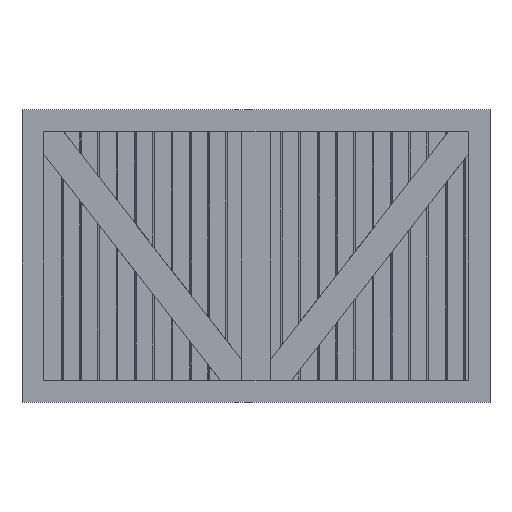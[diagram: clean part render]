
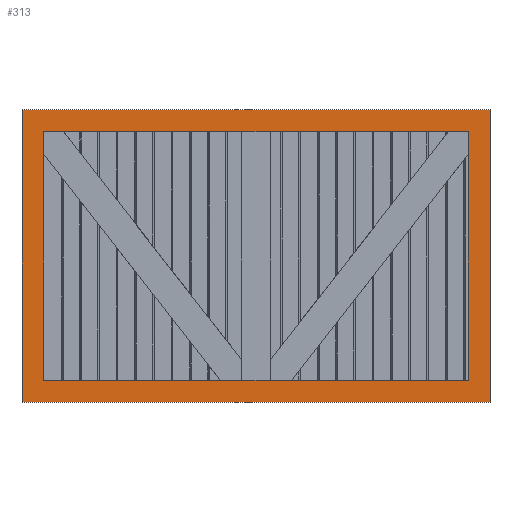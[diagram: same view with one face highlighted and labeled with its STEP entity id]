
A CAD part, top view. The second image highlights one B-rep face of the part: STEP entity #313.
In plain terms, the highlighted planar face has unit normal (0, 0, 1).
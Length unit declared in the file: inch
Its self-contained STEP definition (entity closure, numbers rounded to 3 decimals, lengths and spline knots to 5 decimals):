
#35 = CARTESIAN_POINT ( 'NONE',  ( -3.625, -2.125, 0.25 ) ) ;
#81 = VERTEX_POINT ( 'NONE', #2561 ) ;
#115 = VERTEX_POINT ( 'NONE', #2592 ) ;
#236 = ORIENTED_EDGE ( 'NONE', *, *, #1536, .T. ) ;
#239 = CARTESIAN_POINT ( 'NONE',  ( 0., 0., 0.25 ) ) ;
#278 = CARTESIAN_POINT ( 'NONE',  ( -3.625, -2.125, 0.25 ) ) ;
#282 = ORIENTED_EDGE ( 'NONE', *, *, #4273, .F. ) ;
#313 = ADVANCED_FACE ( 'NONE', ( #3638, #2722 ), #4084, .F. ) ;
#338 = CARTESIAN_POINT ( 'NONE',  ( -3.625, 2.125, 0.25 ) ) ;
#370 = ORIENTED_EDGE ( 'NONE', *, *, #2480, .T. ) ;
#390 = VERTEX_POINT ( 'NONE', #961 ) ;
#597 = LINE ( 'NONE', #1840, #1756 ) ;
#601 = LINE ( 'NONE', #3429, #1160 ) ;
#613 = DIRECTION ( 'NONE',  ( -1., 0., 0. ) ) ;
#708 = CARTESIAN_POINT ( 'NONE',  ( -4., -2.5, 0.25 ) ) ;
#719 = LINE ( 'NONE', #2909, #4320 ) ;
#763 = CARTESIAN_POINT ( 'NONE',  ( 3.625, -2.125, 0.25 ) ) ;
#774 = LINE ( 'NONE', #35, #3330 ) ;
#842 = EDGE_CURVE ( 'NONE', #1594, #2901, #2609, .T. ) ;
#937 = VERTEX_POINT ( 'NONE', #338 ) ;
#961 = CARTESIAN_POINT ( 'NONE',  ( 3.625, 2.125, 0.25 ) ) ;
#1069 = VERTEX_POINT ( 'NONE', #2520 ) ;
#1103 = VECTOR ( 'NONE', #3503, 39.37008 ) ;
#1160 = VECTOR ( 'NONE', #613, 39.37008 ) ;
#1191 = EDGE_LOOP ( 'NONE', ( #3143, #282, #3904, #1501 ) ) ;
#1212 = ORIENTED_EDGE ( 'NONE', *, *, #2254, .T. ) ;
#1285 = DIRECTION ( 'NONE',  ( -1., 0., 0. ) ) ;
#1501 = ORIENTED_EDGE ( 'NONE', *, *, #2225, .F. ) ;
#1536 = EDGE_CURVE ( 'NONE', #2991, #81, #601, .T. ) ;
#1594 = VERTEX_POINT ( 'NONE', #278 ) ;
#1628 = AXIS2_PLACEMENT_3D ( 'NONE', #239, #4431, #1285 ) ;
#1720 = DIRECTION ( 'NONE',  ( 0., -1., 0. ) ) ;
#1756 = VECTOR ( 'NONE', #2251, 39.37008 ) ;
#1797 = ORIENTED_EDGE ( 'NONE', *, *, #3537, .T. ) ;
#1840 = CARTESIAN_POINT ( 'NONE',  ( 4., -2.5, 0.25 ) ) ;
#2039 = DIRECTION ( 'NONE',  ( -1., 0., 0. ) ) ;
#2225 = EDGE_CURVE ( 'NONE', #2901, #390, #719, .T. ) ;
#2251 = DIRECTION ( 'NONE',  ( 0., 1., 0. ) ) ;
#2254 = EDGE_CURVE ( 'NONE', #1069, #2991, #597, .T. ) ;
#2321 = LINE ( 'NONE', #2962, #3396 ) ;
#2410 = EDGE_LOOP ( 'NONE', ( #1212, #236, #1797, #370 ) ) ;
#2480 = EDGE_CURVE ( 'NONE', #115, #1069, #4479, .T. ) ;
#2520 = CARTESIAN_POINT ( 'NONE',  ( 4., -2.5, 0.25 ) ) ;
#2561 = CARTESIAN_POINT ( 'NONE',  ( -4., 2.5, 0.25 ) ) ;
#2592 = CARTESIAN_POINT ( 'NONE',  ( -4., -2.5, 0.25 ) ) ;
#2609 = LINE ( 'NONE', #4426, #3856 ) ;
#2655 = DIRECTION ( 'NONE',  ( 0., -1., 0. ) ) ;
#2668 = EDGE_CURVE ( 'NONE', #390, #937, #2953, .T. ) ;
#2722 = FACE_OUTER_BOUND ( 'NONE', #2410, .T. ) ;
#2901 = VERTEX_POINT ( 'NONE', #763 ) ;
#2909 = CARTESIAN_POINT ( 'NONE',  ( 3.625, -2.125, 0.25 ) ) ;
#2953 = LINE ( 'NONE', #4118, #3178 ) ;
#2962 = CARTESIAN_POINT ( 'NONE',  ( -4., -2.5, 0.25 ) ) ;
#2991 = VERTEX_POINT ( 'NONE', #3869 ) ;
#3082 = DIRECTION ( 'NONE',  ( 1., 0., 0. ) ) ;
#3143 = ORIENTED_EDGE ( 'NONE', *, *, #842, .F. ) ;
#3178 = VECTOR ( 'NONE', #2039, 39.37008 ) ;
#3330 = VECTOR ( 'NONE', #1720, 39.37008 ) ;
#3396 = VECTOR ( 'NONE', #2655, 39.37008 ) ;
#3429 = CARTESIAN_POINT ( 'NONE',  ( -4., 2.5, 0.25 ) ) ;
#3503 = DIRECTION ( 'NONE',  ( 1., 0., 0. ) ) ;
#3537 = EDGE_CURVE ( 'NONE', #81, #115, #2321, .T. ) ;
#3638 = FACE_BOUND ( 'NONE', #1191, .T. ) ;
#3856 = VECTOR ( 'NONE', #3082, 39.37008 ) ;
#3869 = CARTESIAN_POINT ( 'NONE',  ( 4., 2.5, 0.25 ) ) ;
#3904 = ORIENTED_EDGE ( 'NONE', *, *, #2668, .F. ) ;
#4084 = PLANE ( 'NONE',  #1628 ) ;
#4118 = CARTESIAN_POINT ( 'NONE',  ( 3.625, 2.125, 0.25 ) ) ;
#4273 = EDGE_CURVE ( 'NONE', #937, #1594, #774, .T. ) ;
#4320 = VECTOR ( 'NONE', #4333, 39.37008 ) ;
#4333 = DIRECTION ( 'NONE',  ( 0., 1., 0. ) ) ;
#4426 = CARTESIAN_POINT ( 'NONE',  ( 3.625, -2.125, 0.25 ) ) ;
#4431 = DIRECTION ( 'NONE',  ( 0., 0., -1. ) ) ;
#4479 = LINE ( 'NONE', #708, #1103 ) ;
